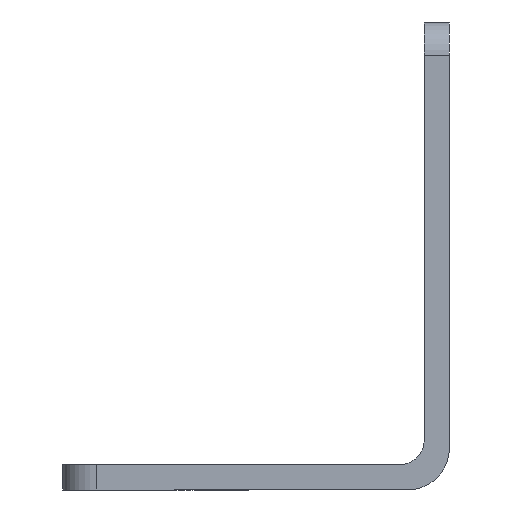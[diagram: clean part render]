
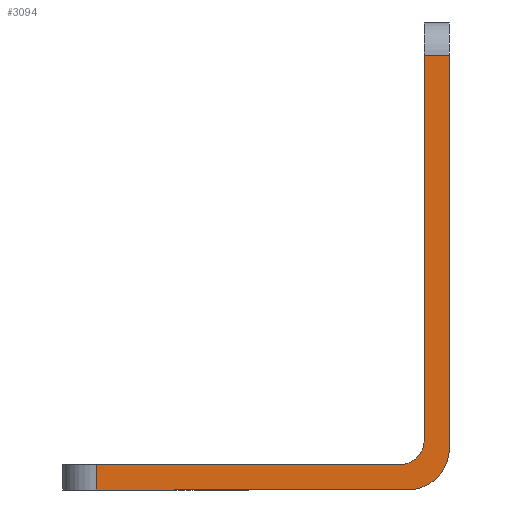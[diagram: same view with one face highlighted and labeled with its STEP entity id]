
A CAD part, front view. The second image highlights one B-rep face of the part: STEP entity #3094.
In plain terms, the highlighted planar face has unit normal (0, -1, 0).
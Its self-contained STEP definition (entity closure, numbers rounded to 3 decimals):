
#163=PLANE('',#3395);
#312=FACE_OUTER_BOUND('',#536,.T.);
#536=EDGE_LOOP('',(#2863,#2864,#2865,#2866,#2867,#2868,#2869,#2870));
#802=LINE('',#5100,#1090);
#808=LINE('',#5114,#1096);
#816=LINE('',#5141,#1104);
#820=LINE('',#5152,#1108);
#822=LINE('',#5159,#1110);
#824=LINE('',#5164,#1112);
#1090=VECTOR('',#4215,3.);
#1096=VECTOR('',#4227,37.2);
#1104=VECTOR('',#4253,45.9);
#1108=VECTOR('',#4265,3.);
#1110=VECTOR('',#4273,36.2);
#1112=VECTOR('',#4281,46.9);
#1261=CIRCLE('',#3390,5.);
#1262=CIRCLE('',#3393,3.);
#1534=VERTEX_POINT('',#5094);
#1536=VERTEX_POINT('',#5098);
#1541=VERTEX_POINT('',#5112);
#1550=VERTEX_POINT('',#5138);
#1551=VERTEX_POINT('',#5140);
#1554=VERTEX_POINT('',#5150);
#1555=VERTEX_POINT('',#5154);
#1556=VERTEX_POINT('',#5158);
#1962=EDGE_CURVE('',#1534,#1536,#802,.T.);
#1969=EDGE_CURVE('',#1541,#1536,#808,.T.);
#1982=EDGE_CURVE('',#1550,#1551,#816,.T.);
#1988=EDGE_CURVE('',#1554,#1551,#820,.T.);
#1989=EDGE_CURVE('',#1555,#1541,#1261,.T.);
#1991=EDGE_CURVE('',#1534,#1556,#822,.T.);
#1993=EDGE_CURVE('',#1556,#1550,#1262,.T.);
#1994=EDGE_CURVE('',#1554,#1555,#824,.T.);
#2863=ORIENTED_EDGE('',*,*,#1962,.T.);
#2864=ORIENTED_EDGE('',*,*,#1969,.F.);
#2865=ORIENTED_EDGE('',*,*,#1989,.F.);
#2866=ORIENTED_EDGE('',*,*,#1994,.F.);
#2867=ORIENTED_EDGE('',*,*,#1988,.T.);
#2868=ORIENTED_EDGE('',*,*,#1982,.F.);
#2869=ORIENTED_EDGE('',*,*,#1993,.F.);
#2870=ORIENTED_EDGE('',*,*,#1991,.F.);
#3094=ADVANCED_FACE('',(#312),#163,.T.);
#3390=AXIS2_PLACEMENT_3D('',#5155,#4268,#4269);
#3393=AXIS2_PLACEMENT_3D('',#5162,#4277,#4278);
#3395=AXIS2_PLACEMENT_3D('',#5165,#4282,#4283);
#4215=DIRECTION('',(0.,0.,-1.));
#4227=DIRECTION('',(-1.,0.,0.));
#4253=DIRECTION('',(0.,0.,1.));
#4265=DIRECTION('',(-1.,0.,0.));
#4268=DIRECTION('center_axis',(0.,1.,0.));
#4269=DIRECTION('ref_axis',(0.,0.,1.));
#4273=DIRECTION('',(1.,0.,0.));
#4277=DIRECTION('center_axis',(0.,-1.,0.));
#4278=DIRECTION('ref_axis',(0.,0.,-1.));
#4281=DIRECTION('',(0.,0.,-1.));
#4282=DIRECTION('center_axis',(0.,-1.,0.));
#4283=DIRECTION('ref_axis',(0.,0.,1.));
#5094=CARTESIAN_POINT('',(50.2,0.,3.));
#5098=CARTESIAN_POINT('',(50.2,0.,0.));
#5100=CARTESIAN_POINT('',(50.2,0.,10.133));
#5112=CARTESIAN_POINT('',(87.4,0.,0.));
#5114=CARTESIAN_POINT('',(87.4,0.,0.));
#5138=CARTESIAN_POINT('',(89.4,0.,6.));
#5140=CARTESIAN_POINT('',(89.4,0.,51.9));
#5141=CARTESIAN_POINT('',(89.4,0.,6.));
#5150=CARTESIAN_POINT('',(92.4,0.,51.9));
#5152=CARTESIAN_POINT('',(86.272,0.,51.9));
#5154=CARTESIAN_POINT('',(92.4,0.,5.));
#5155=CARTESIAN_POINT('Origin',(87.4,0.,5.));
#5158=CARTESIAN_POINT('',(86.4,0.,3.));
#5159=CARTESIAN_POINT('',(46.2,0.,3.));
#5162=CARTESIAN_POINT('Origin',(86.4,0.,6.));
#5164=CARTESIAN_POINT('',(92.4,0.,55.9));
#5165=CARTESIAN_POINT('Origin',(80.145,0.,17.266));
